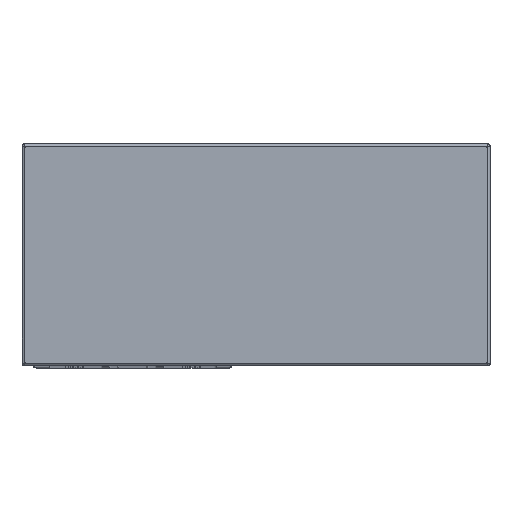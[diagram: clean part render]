
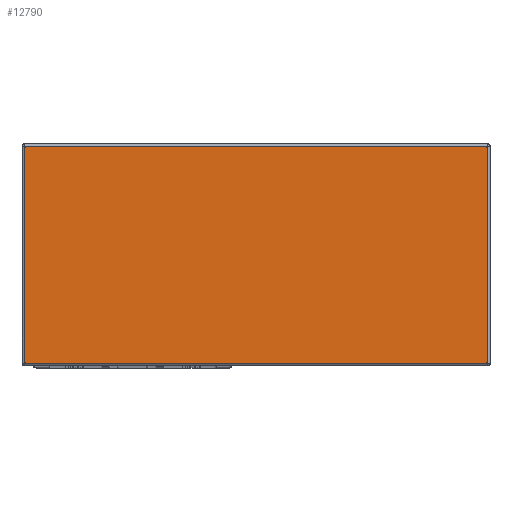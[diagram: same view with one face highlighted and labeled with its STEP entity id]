
A CAD part, top view. The second image highlights one B-rep face of the part: STEP entity #12790.
In plain terms, the highlighted planar face has unit normal (0, 0, 1).
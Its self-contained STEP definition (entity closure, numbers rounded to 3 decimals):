
#534 = PLANE ( 'NONE',  #13680 ) ;
#950 = CARTESIAN_POINT ( 'NONE',  ( -44., 44., 571. ) ) ;
#2781 = CARTESIAN_POINT ( 'NONE',  ( -44., -44., 571. ) ) ;
#4129 = LINE ( 'NONE', #12740, #11106 ) ;
#5783 = CARTESIAN_POINT ( 'NONE',  ( 0., 0., 571. ) ) ;
#6170 = CARTESIAN_POINT ( 'NONE',  ( 144., -44., 571. ) ) ;
#6490 = ORIENTED_EDGE ( 'NONE', *, *, #33488, .T. ) ;
#6648 = FACE_OUTER_BOUND ( 'NONE', #16676, .T. ) ;
#7644 = CARTESIAN_POINT ( 'NONE',  ( -44., -45., 571. ) ) ;
#7857 = VERTEX_POINT ( 'NONE', #6170 ) ;
#9257 = VECTOR ( 'NONE', #14291, 1000. ) ;
#9290 = ORIENTED_EDGE ( 'NONE', *, *, #30666, .T. ) ;
#9302 = VECTOR ( 'NONE', #32633, 1000. ) ;
#10650 = CARTESIAN_POINT ( 'NONE',  ( 144., 44., 571. ) ) ;
#11106 = VECTOR ( 'NONE', #31070, 1000. ) ;
#11174 = VERTEX_POINT ( 'NONE', #2781 ) ;
#12740 = CARTESIAN_POINT ( 'NONE',  ( -45., 44., 571. ) ) ;
#12790 = ADVANCED_FACE ( 'NONE', ( #6648 ), #534, .T. ) ;
#13680 = AXIS2_PLACEMENT_3D ( 'NONE', #5783, #29393, #13688 ) ;
#13688 = DIRECTION ( 'NONE',  ( 1., 0., 0. ) ) ;
#13812 = VERTEX_POINT ( 'NONE', #950 ) ;
#14291 = DIRECTION ( 'NONE',  ( 0., 1., 0. ) ) ;
#16676 = EDGE_LOOP ( 'NONE', ( #18453, #6490, #9290, #28519 ) ) ;
#17298 = VECTOR ( 'NONE', #25997, 1000. ) ;
#18453 = ORIENTED_EDGE ( 'NONE', *, *, #19786, .T. ) ;
#19786 = EDGE_CURVE ( 'NONE', #11174, #7857, #30225, .T. ) ;
#24049 = LINE ( 'NONE', #24729, #9257 ) ;
#24729 = CARTESIAN_POINT ( 'NONE',  ( 144., 45., 571. ) ) ;
#25997 = DIRECTION ( 'NONE',  ( 0., -1., 0. ) ) ;
#27513 = VERTEX_POINT ( 'NONE', #10650 ) ;
#28519 = ORIENTED_EDGE ( 'NONE', *, *, #29605, .T. ) ;
#29393 = DIRECTION ( 'NONE',  ( 0., 0., 1. ) ) ;
#29605 = EDGE_CURVE ( 'NONE', #13812, #11174, #30423, .T. ) ;
#30004 = CARTESIAN_POINT ( 'NONE',  ( 145., -44., 571. ) ) ;
#30225 = LINE ( 'NONE', #30004, #9302 ) ;
#30423 = LINE ( 'NONE', #7644, #17298 ) ;
#30666 = EDGE_CURVE ( 'NONE', #27513, #13812, #4129, .T. ) ;
#31070 = DIRECTION ( 'NONE',  ( -1., 0., 0. ) ) ;
#32633 = DIRECTION ( 'NONE',  ( 1., 0., 0. ) ) ;
#33488 = EDGE_CURVE ( 'NONE', #7857, #27513, #24049, .T. ) ;
